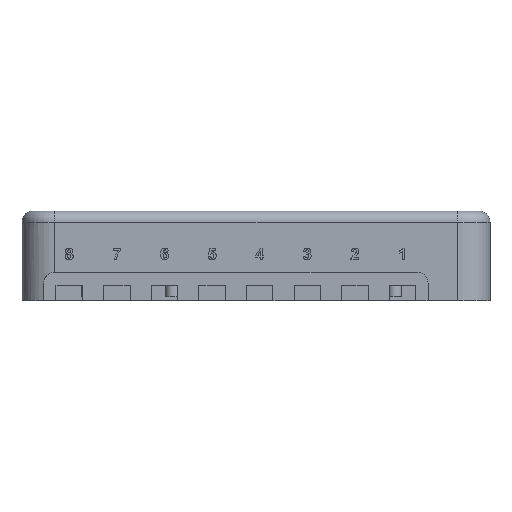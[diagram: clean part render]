
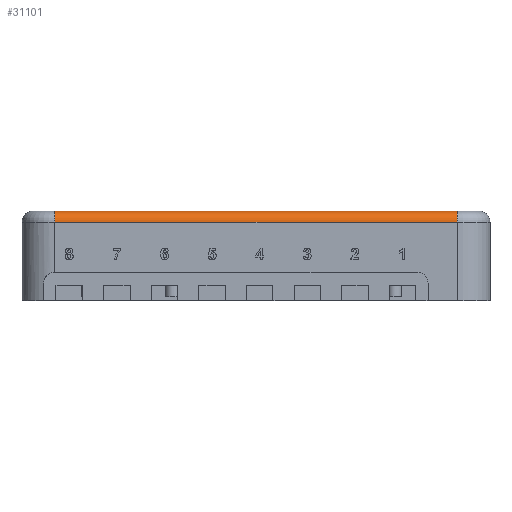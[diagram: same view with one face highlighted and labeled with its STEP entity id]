
A CAD part, left-side view. The second image highlights one B-rep face of the part: STEP entity #31101.
In plain terms, the highlighted cylindrical face has radius 3 mm (diameter 6 mm), a partial arc.
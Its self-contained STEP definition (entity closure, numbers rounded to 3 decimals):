
#1757 = VERTEX_POINT('',#1758);
#1758 = CARTESIAN_POINT('',(57.5,-160.35,22.4));
#1772 = PLANE('',#1773);
#1773 = AXIS2_PLACEMENT_3D('',#1774,#1775,#1776);
#1774 = CARTESIAN_POINT('',(57.5,-40.6,0.7));
#1775 = DIRECTION('',(1.,0.,-0.));
#1776 = DIRECTION('',(0.,-1.,0.));
#1799 = TOROIDAL_SURFACE('',#1800,6.,3.);
#1800 = AXIS2_PLACEMENT_3D('',#1801,#1802,#1803);
#1801 = CARTESIAN_POINT('',(66.5,-160.35,22.4));
#1802 = DIRECTION('',(0.,0.,1.));
#1803 = DIRECTION('',(-1.,0.,0.));
#1852 = PLANE('',#1853);
#1853 = AXIS2_PLACEMENT_3D('',#1854,#1855,#1856);
#1854 = CARTESIAN_POINT('',(149.55,-104.975,25.4));
#1855 = DIRECTION('',(0.,0.,1.));
#1856 = DIRECTION('',(1.,0.,-0.));
#5256 = EDGE_CURVE('',#1757,#5257,#5259,.T.);
#5257 = VERTEX_POINT('',#5258);
#5258 = CARTESIAN_POINT('',(60.5,-160.35,25.4));
#5259 = SURFACE_CURVE('',#5260,(#5265,#5271),.PCURVE_S1.);
#5260 = CIRCLE('',#5261,3.);
#5261 = AXIS2_PLACEMENT_3D('',#5262,#5263,#5264);
#5262 = CARTESIAN_POINT('',(60.5,-160.35,22.4));
#5263 = DIRECTION('',(-0.,1.,0.));
#5264 = DIRECTION('',(-1.,-0.,0.));
#5265 = PCURVE('',#1799,#5266);
#5266 = DEFINITIONAL_REPRESENTATION('',(#5267),#5270);
#5267 = B_SPLINE_CURVE_WITH_KNOTS('',1,(#5268,#5269),.UNSPECIFIED.,.F.,
  .F.,(2,2),(0.,1.571),.PIECEWISE_BEZIER_KNOTS.);
#5268 = CARTESIAN_POINT('',(0.,0.));
#5269 = CARTESIAN_POINT('',(0.,1.571));
#5270 = ( GEOMETRIC_REPRESENTATION_CONTEXT(2) 
PARAMETRIC_REPRESENTATION_CONTEXT() REPRESENTATION_CONTEXT('2D SPACE',''
  ) );
#5271 = PCURVE('',#5272,#5277);
#5272 = CYLINDRICAL_SURFACE('',#5273,3.);
#5273 = AXIS2_PLACEMENT_3D('',#5274,#5275,#5276);
#5274 = CARTESIAN_POINT('',(60.5,-49.6,22.4));
#5275 = DIRECTION('',(0.,-1.,0.));
#5276 = DIRECTION('',(-1.,-0.,0.));
#5277 = DEFINITIONAL_REPRESENTATION('',(#5278),#5281);
#5278 = B_SPLINE_CURVE_WITH_KNOTS('',1,(#5279,#5280),.UNSPECIFIED.,.F.,
  .F.,(2,2),(0.,1.571),.PIECEWISE_BEZIER_KNOTS.);
#5279 = CARTESIAN_POINT('',(0.,110.75));
#5280 = CARTESIAN_POINT('',(-1.571,110.75));
#5281 = ( GEOMETRIC_REPRESENTATION_CONTEXT(2) 
PARAMETRIC_REPRESENTATION_CONTEXT() REPRESENTATION_CONTEXT('2D SPACE',''
  ) );
#5339 = VERTEX_POINT('',#5340);
#5340 = CARTESIAN_POINT('',(57.5,-49.6,22.4));
#5366 = EDGE_CURVE('',#5339,#1757,#5367,.T.);
#5367 = SURFACE_CURVE('',#5368,(#5372,#5379),.PCURVE_S1.);
#5368 = LINE('',#5369,#5370);
#5369 = CARTESIAN_POINT('',(57.5,-49.6,22.4));
#5370 = VECTOR('',#5371,1.);
#5371 = DIRECTION('',(0.,-1.,0.));
#5372 = PCURVE('',#1772,#5373);
#5373 = DEFINITIONAL_REPRESENTATION('',(#5374),#5378);
#5374 = LINE('',#5375,#5376);
#5375 = CARTESIAN_POINT('',(9.,-21.7));
#5376 = VECTOR('',#5377,1.);
#5377 = DIRECTION('',(1.,0.));
#5378 = ( GEOMETRIC_REPRESENTATION_CONTEXT(2) 
PARAMETRIC_REPRESENTATION_CONTEXT() REPRESENTATION_CONTEXT('2D SPACE',''
  ) );
#5379 = PCURVE('',#5272,#5380);
#5380 = DEFINITIONAL_REPRESENTATION('',(#5381),#5385);
#5381 = LINE('',#5382,#5383);
#5382 = CARTESIAN_POINT('',(-0.,0.));
#5383 = VECTOR('',#5384,1.);
#5384 = DIRECTION('',(-0.,1.));
#5385 = ( GEOMETRIC_REPRESENTATION_CONTEXT(2) 
PARAMETRIC_REPRESENTATION_CONTEXT() REPRESENTATION_CONTEXT('2D SPACE',''
  ) );
#9425 = VERTEX_POINT('',#9426);
#9426 = CARTESIAN_POINT('',(60.5,-49.6,25.4));
#9441 = TOROIDAL_SURFACE('',#9442,6.,3.);
#9442 = AXIS2_PLACEMENT_3D('',#9443,#9444,#9445);
#9443 = CARTESIAN_POINT('',(66.5,-49.6,22.4));
#9444 = DIRECTION('',(0.,0.,1.));
#9445 = DIRECTION('',(0.,1.,-0.));
#9453 = EDGE_CURVE('',#9425,#5257,#9454,.T.);
#9454 = SURFACE_CURVE('',#9455,(#9459,#9466),.PCURVE_S1.);
#9455 = LINE('',#9456,#9457);
#9456 = CARTESIAN_POINT('',(60.5,-49.6,25.4));
#9457 = VECTOR('',#9458,1.);
#9458 = DIRECTION('',(0.,-1.,0.));
#9459 = PCURVE('',#1852,#9460);
#9460 = DEFINITIONAL_REPRESENTATION('',(#9461),#9465);
#9461 = LINE('',#9462,#9463);
#9462 = CARTESIAN_POINT('',(-89.05,55.375));
#9463 = VECTOR('',#9464,1.);
#9464 = DIRECTION('',(0.,-1.));
#9465 = ( GEOMETRIC_REPRESENTATION_CONTEXT(2) 
PARAMETRIC_REPRESENTATION_CONTEXT() REPRESENTATION_CONTEXT('2D SPACE',''
  ) );
#9466 = PCURVE('',#5272,#9467);
#9467 = DEFINITIONAL_REPRESENTATION('',(#9468),#9472);
#9468 = LINE('',#9469,#9470);
#9469 = CARTESIAN_POINT('',(-1.571,0.));
#9470 = VECTOR('',#9471,1.);
#9471 = DIRECTION('',(-0.,1.));
#9472 = ( GEOMETRIC_REPRESENTATION_CONTEXT(2) 
PARAMETRIC_REPRESENTATION_CONTEXT() REPRESENTATION_CONTEXT('2D SPACE',''
  ) );
#31101 = ADVANCED_FACE('',(#31102),#5272,.T.);
#31102 = FACE_BOUND('',#31103,.F.);
#31103 = EDGE_LOOP('',(#31104,#31124,#31125,#31126));
#31104 = ORIENTED_EDGE('',*,*,#31105,.T.);
#31105 = EDGE_CURVE('',#5339,#9425,#31106,.T.);
#31106 = SURFACE_CURVE('',#31107,(#31112,#31118),.PCURVE_S1.);
#31107 = CIRCLE('',#31108,3.);
#31108 = AXIS2_PLACEMENT_3D('',#31109,#31110,#31111);
#31109 = CARTESIAN_POINT('',(60.5,-49.6,22.4));
#31110 = DIRECTION('',(0.,1.,-0.));
#31111 = DIRECTION('',(-1.,0.,0.));
#31112 = PCURVE('',#5272,#31113);
#31113 = DEFINITIONAL_REPRESENTATION('',(#31114),#31117);
#31114 = B_SPLINE_CURVE_WITH_KNOTS('',1,(#31115,#31116),.UNSPECIFIED.,
  .F.,.F.,(2,2),(0.,1.571),.PIECEWISE_BEZIER_KNOTS.);
#31115 = CARTESIAN_POINT('',(0.,0.));
#31116 = CARTESIAN_POINT('',(-1.571,0.));
#31117 = ( GEOMETRIC_REPRESENTATION_CONTEXT(2) 
PARAMETRIC_REPRESENTATION_CONTEXT() REPRESENTATION_CONTEXT('2D SPACE',''
  ) );
#31118 = PCURVE('',#9441,#31119);
#31119 = DEFINITIONAL_REPRESENTATION('',(#31120),#31123);
#31120 = B_SPLINE_CURVE_WITH_KNOTS('',1,(#31121,#31122),.UNSPECIFIED.,
  .F.,.F.,(2,2),(0.,1.571),.PIECEWISE_BEZIER_KNOTS.);
#31121 = CARTESIAN_POINT('',(1.571,0.));
#31122 = CARTESIAN_POINT('',(1.571,1.571));
#31123 = ( GEOMETRIC_REPRESENTATION_CONTEXT(2) 
PARAMETRIC_REPRESENTATION_CONTEXT() REPRESENTATION_CONTEXT('2D SPACE',''
  ) );
#31124 = ORIENTED_EDGE('',*,*,#9453,.T.);
#31125 = ORIENTED_EDGE('',*,*,#5256,.F.);
#31126 = ORIENTED_EDGE('',*,*,#5366,.F.);
